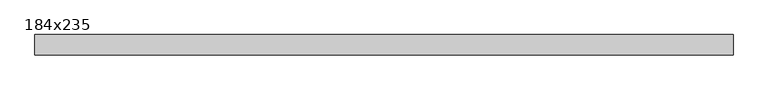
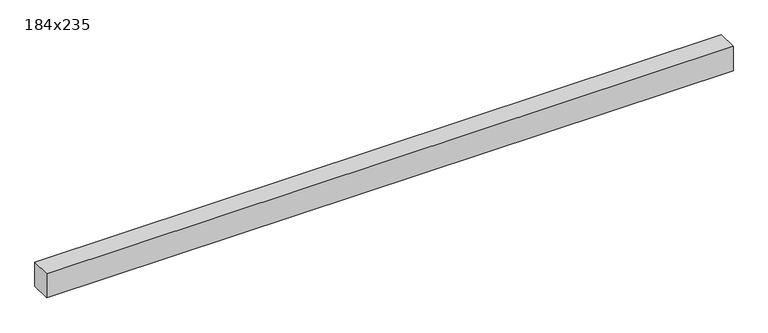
"""IFC4 building model written with IfcOpenShell, lengths in millimetres: beam geometry, Poutre - Bois d'oeuvre : 184x235."""

import ifcopenshell
import ifcopenshell.guid

model = None  # the IFC model being written
_history = None  # IfcOwnerHistory: only IFC2X3 demands one
_inside = {}  # id of a spatial element -> (the spatial element, [elements in it])
_under = {}  # id of a project, library or spatial element -> (it, [spatial elements below it])
_declared = {}  # id of a project -> (the project, [libraries it declares])
_typed = {}  # id of a type object -> (the type object, [elements of that type])
_made_of = {}  # id of a material, layer set ... -> (it, [elements and type objects made of it])


def new_model(schema):
    """Start an empty IFC model of exactly this schema.

    Asked for "IFC4X3", IfcOpenShell would pick the latest addendum, in which some entities
    have other attributes; the version numbers below select the first issue.
    IFC2X3 requires an IfcOwnerHistory on every rooted entity: one is made here for all.
    """
    global model, _history
    if schema == "IFC4X3":
        model = ifcopenshell.file(schema_version=(4, 3, 0, 0))
    else:
        model = ifcopenshell.file(schema=schema)
    _inside.clear()
    _under.clear()
    _declared.clear()
    _typed.clear()
    _made_of.clear()
    _history = None
    if model.schema == "IFC2X3":
        org = make("IfcOrganization", Name="unknown")
        user = make(
            "IfcPersonAndOrganization",
            ThePerson=make("IfcPerson", FamilyName="unknown"),
            TheOrganization=org,
        )
        app = make(
            "IfcApplication",
            ApplicationDeveloper=org,
            Version="unknown",
            ApplicationFullName="unknown",
            ApplicationIdentifier="unknown",
        )
        _history = make(
            "IfcOwnerHistory",
            OwningUser=user,
            OwningApplication=app,
            ChangeAction="ADDED",
            CreationDate=0,
        )
    return model


def make(cls, **values):
    """One entity of the class cls with the attributes given. An attribute that is None is left unset."""
    return model.create_entity(
        cls, **{name: value for name, value in values.items() if value is not None}
    )


def rooted(cls, **values):
    """An entity with a GlobalId (a new one), such as an element, a storey or a relation."""
    return make(cls, GlobalId=ifcopenshell.guid.new(), OwnerHistory=_history, **values)


def si_unit(unit_type, name, prefix=None):
    """IfcSIUnit, for example si_unit("LENGTHUNIT", "METRE", prefix="MILLI")."""
    return make("IfcSIUnit", UnitType=unit_type, Prefix=prefix, Name=name)


def assignment(units):
    """IfcUnitAssignment: the units of a project."""
    return None if units is None else make("IfcUnitAssignment", Units=units)


def point(xyz):
    """IfcCartesianPoint."""
    return None if xyz is None else make("IfcCartesianPoint", Coordinates=xyz)


def direction(xyz):
    """IfcDirection."""
    return None if xyz is None else make("IfcDirection", DirectionRatios=xyz)


def frame(location, z_axis=None, x_axis=None):
    """IfcAxis2Placement3D, a coordinate frame: its origin and axes. An axis left out is left unset."""
    return make(
        "IfcAxis2Placement3D",
        Location=point(location),
        Axis=direction(z_axis),
        RefDirection=direction(x_axis),
    )


def origin():
    """The frame at (0, 0, 0) with its axes left unset."""
    return frame((0.0, 0.0, 0.0))


def place(relative_to, where):
    """IfcLocalPlacement: puts the frame where relative to a parent placement (None: the world)."""
    return make(
        "IfcLocalPlacement", PlacementRelTo=relative_to, RelativePlacement=where
    )


def context(
    kind, dimensions, precision=None, world=None, true_north=None, identifier=None
):
    """IfcGeometricRepresentationContext, for example the 3D "Model" context."""
    return make(
        "IfcGeometricRepresentationContext",
        ContextIdentifier=identifier,
        ContextType=kind,
        CoordinateSpaceDimension=dimensions,
        Precision=precision,
        WorldCoordinateSystem=world,
        TrueNorth=true_north,
    )


def project(units=None, contexts=None):
    """IfcProject with its units and contexts."""
    return rooted(
        "IfcProject",
        Name="project",
        RepresentationContexts=contexts,
        UnitsInContext=assignment(units),
    )


def spatial(cls, under=None, at=None, **own):
    """A site, building, storey or space (cls), placed at a placement, below another one or the project."""
    s = rooted(cls, ObjectPlacement=at, **own)
    if under is not None:
        _under.setdefault(under.id(), (under, []))[1].append(s)
    return s


def polyline(points):
    """IfcPolyline through the points."""
    return make("IfcPolyline", Points=[point(p) for p in points])


def outline(outer, holes=None, kind="AREA"):
    """IfcArbitraryClosedProfileDef: a profile drawn as a closed curve; with holes, ...WithVoids."""
    if holes is None:
        return make("IfcArbitraryClosedProfileDef", ProfileType=kind, OuterCurve=outer)
    return make(
        "IfcArbitraryProfileDefWithVoids",
        ProfileType=kind,
        OuterCurve=outer,
        InnerCurves=holes,
    )


def extrude(swept, where, along, depth):
    """IfcExtrudedAreaSolid: the profile swept, set in the frame where, extruded along a direction by depth."""
    return make(
        "IfcExtrudedAreaSolid",
        SweptArea=swept,
        Position=where,
        ExtrudedDirection=direction(along),
        Depth=depth,
    )


def shape(context_of_items, identifier, shape_type, items):
    """IfcShapeRepresentation: the items that make up one representation, for example the "Body"."""
    return make(
        "IfcShapeRepresentation",
        ContextOfItems=context_of_items,
        RepresentationIdentifier=identifier,
        RepresentationType=shape_type,
        Items=items,
    )


def source(mapping_origin, context_of_items, identifier, shape_type, items):
    """IfcRepresentationMap: a shape defined once, which mapped items show again and again."""
    return make(
        "IfcRepresentationMap",
        MappingOrigin=mapping_origin,
        MappedRepresentation=shape(context_of_items, identifier, shape_type, items),
    )


def transform(
    local_origin,
    x_axis=None,
    y_axis=None,
    z_axis=None,
    scale=None,
    scale2=None,
    scale3=None,
    uniform=True,
):
    """IfcCartesianTransformationOperator3D, or its non-uniform kind. x_axis, y_axis, z_axis: its Axis1, 2, 3."""
    if uniform:
        return make(
            "IfcCartesianTransformationOperator3D",
            Axis1=direction(x_axis),
            Axis2=direction(y_axis),
            LocalOrigin=point(local_origin),
            Scale=scale,
            Axis3=direction(z_axis),
        )
    return make(
        "IfcCartesianTransformationOperator3DnonUniform",
        Axis1=direction(x_axis),
        Axis2=direction(y_axis),
        LocalOrigin=point(local_origin),
        Scale=scale,
        Axis3=direction(z_axis),
        Scale2=scale2,
        Scale3=scale3,
    )


def mapped(mapping_source, mapping_target):
    """IfcMappedItem: shows the shape of a source again, moved by a transform."""
    return make(
        "IfcMappedItem", MappingSource=mapping_source, MappingTarget=mapping_target
    )


def made_of(thing, what):
    """Note that an element or type object is made of a material, layer set ...; save() writes the relation."""
    if what is not None:
        _made_of.setdefault(what.id(), (what, []))[1].append(thing)
    return thing


def element(
    cls,
    number,
    at=None,
    inside=None,
    cuts=None,
    type_object=None,
    material=None,
    context=None,
    identifier="Body",
    shape_type=None,
    held_by="IfcProductDefinitionShape",
    body=None,
    shapes=None,
    **own,
):
    """One element of the class cls, such as IfcWall. Its Tag is "e" and its number.

    at: its placement. inside: the storey or other place that contains it. cuts: it is an
    opening in that element (IfcRelVoidsElement). A single representation is given by context,
    identifier, shape_type and body (its items); several are given by shapes. held_by: the class
    of the entity that holds the representations. save() writes the other relations.
    """
    e = rooted(cls, Tag="e%d" % number, ObjectPlacement=at, **own)
    if body is not None:
        shapes = [shape(context, identifier, shape_type, body)]
    if shapes is not None:
        e.Representation = make(held_by, Representations=shapes)
    if inside is not None:
        _inside.setdefault(inside.id(), (inside, []))[1].append(e)
    if cuts is not None:
        rooted(
            "IfcRelVoidsElement", RelatingBuildingElement=cuts, RelatedOpeningElement=e
        )
    if type_object is not None:
        _typed.setdefault(type_object.id(), (type_object, []))[1].append(e)
    return made_of(e, material)


def aggregate(whole, parts):
    """IfcRelAggregates: a whole, such as a stair, and the parts it consists of."""
    return rooted("IfcRelAggregates", RelatingObject=whole, RelatedObjects=parts)


def save(model, path):
    """Write the relations noted so far, then the file.

    IfcRelAggregates (storeys below a building ...), IfcRelContainedInSpatialStructure (elements
    in a storey), IfcRelDefinesByType, IfcRelAssociatesMaterial and IfcRelDeclares: one each for
    every whole, place, type object, material and project.
    """
    for whole, parts in _under.values():
        aggregate(whole, parts)
    for where, things in _inside.values():
        rooted(
            "IfcRelContainedInSpatialStructure",
            RelatedElements=things,
            RelatingStructure=where,
        )
    for kind, things in _typed.values():
        rooted("IfcRelDefinesByType", RelatedObjects=things, RelatingType=kind)
    for what, things in _made_of.values():
        rooted("IfcRelAssociatesMaterial", RelatedObjects=things, RelatingMaterial=what)
    for by, libraries in _declared.values():
        rooted("IfcRelDeclares", RelatingContext=by, RelatedDefinitions=libraries)
    model.write(path)


def beam_184x235_d860abd9(model_context):
    return source(origin(), model_context, "Body", "SweptSolid", [
        extrude(outline(polyline([(3247.5, 95.25), (3247.5, -95.25), (-3247.5, -95.25), (-3247.5, 95.25), (3247.5, 95.25)])), frame((0.0, 0.0, -120.65), z_axis=(0.0, 0.0, 1.0), x_axis=(1.0, 0.0, 0.0)), (0.0, 0.0, 1.0), 241.3),
    ])


if __name__ == "__main__":
    model = new_model("IFC4")
    model_context = context("Model", 3, world=origin())
    ifc_project = project(units=[si_unit("LENGTHUNIT", "METRE", prefix="MILLI")], contexts=[model_context])
    site = spatial("IfcSite", under=ifc_project)
    building = spatial("IfcBuilding", under=site)
    placement = place(None, origin())
    beam_184x235_shape = beam_184x235_d860abd9(model_context)
    element("IfcBeam", 1, ObjectType="Poutre - Bois d'oeuvre : 184x235", at=placement, inside=building, context=model_context, shape_type="MappedRepresentation", body=[
        mapped(beam_184x235_shape, transform((0.0, 0.0, 0.0), x_axis=(1.0, 0.0, 0.0), y_axis=(0.0, 1.0, 0.0), z_axis=(0.0, 0.0, 1.0))),
    ])
    save(model, "model.ifc")
